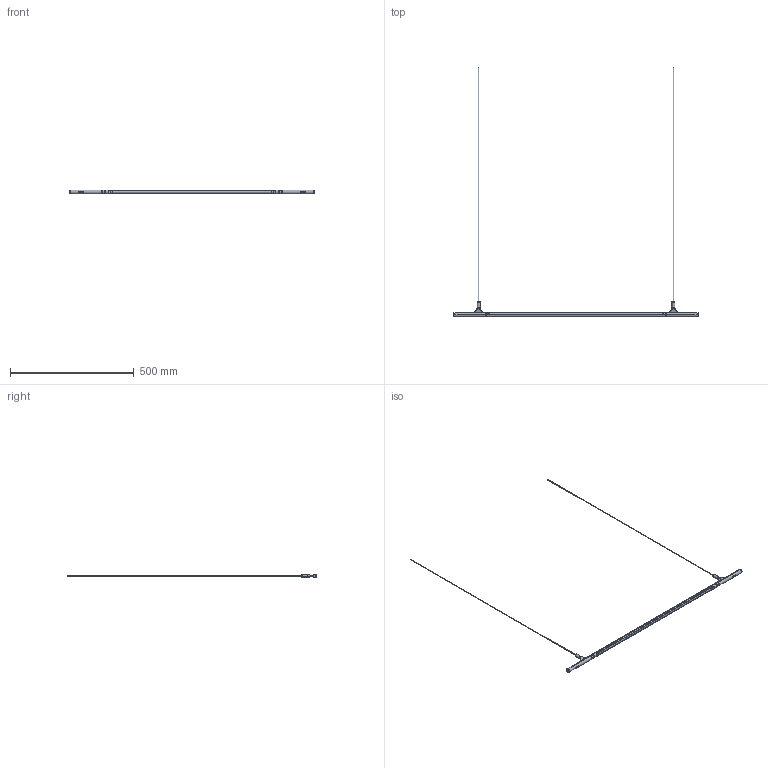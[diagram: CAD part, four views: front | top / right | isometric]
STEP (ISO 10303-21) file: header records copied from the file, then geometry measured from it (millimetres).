
FILE_DESCRIPTION (( 'STEP AP203' ), '1' );
FILE_NAME ('Gallery - Single Pendant.STEP', '2024-03-26T00:36:23', ( '' ), ( '' ), 'SwSTEP 2.0', 'SolidWorks 2017', '' );
FILE_SCHEMA (( 'CONFIG_CONTROL_DESIGN' ));
Length unit declared in the file: millimetre
Products named in the file (1): Gallery - Single Pendant
Bounding box: 988.8 x 1010 x 16 mm (x, y, z)
Volume: 194557.4 mm3; surface area: 101143.1 mm2
Topology: 6 solids, 6 shells, 304 faces, 700 edges, 430 vertices
Faces by surface type: plane 111, cylinder 103, torus 38, bspline 38, cone 8, sphere 6
Entity records: 12795 total; most frequent: CARTESIAN_POINT 5991, DIRECTION 1414, ORIENTED_EDGE 1392, EDGE_CURVE 696, AXIS2_PLACEMENT_3D 561, VERTEX_POINT 428, EDGE_LOOP 328, ADVANCED_FACE 304
